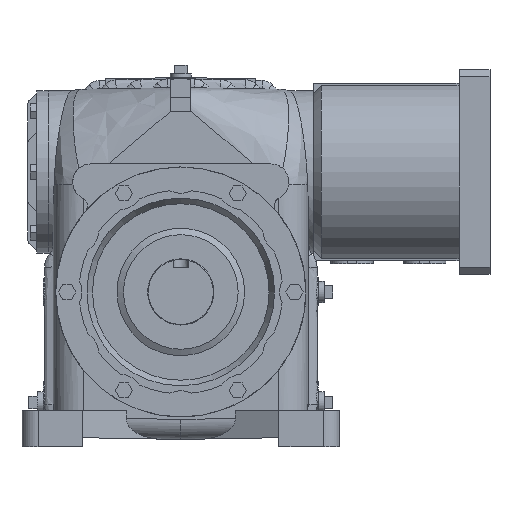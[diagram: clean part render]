
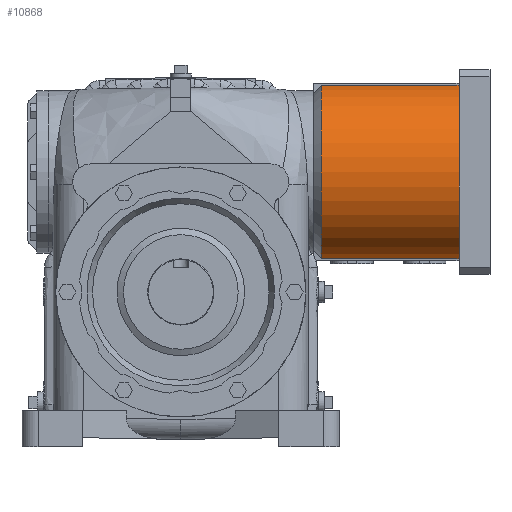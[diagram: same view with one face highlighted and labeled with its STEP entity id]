
A CAD part, front view. The second image highlights one B-rep face of the part: STEP entity #10868.
In plain terms, the highlighted cylindrical face has radius 112.713 mm (diameter 225.425 mm), a partial arc.
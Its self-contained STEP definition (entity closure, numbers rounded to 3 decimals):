
#204=CYLINDRICAL_SURFACE('',#13046,112.713);
#1579=LINE('',#33368,#2365);
#1583=LINE('',#33375,#2369);
#2365=VECTOR('',#15440,1000.);
#2369=VECTOR('',#15450,1000.);
#5345=ORIENTED_EDGE('',*,*,#6947,.F.);
#5346=ORIENTED_EDGE('',*,*,#6987,.F.);
#5347=ORIENTED_EDGE('',*,*,#6963,.T.);
#5348=ORIENTED_EDGE('',*,*,#6991,.T.);
#6947=EDGE_CURVE('',#8043,#8044,#8341,.T.);
#6963=EDGE_CURVE('',#8059,#8058,#8348,.T.);
#6987=EDGE_CURVE('',#8059,#8043,#1579,.T.);
#6991=EDGE_CURVE('',#8058,#8044,#1583,.T.);
#8043=VERTEX_POINT('',#33272);
#8044=VERTEX_POINT('',#33274);
#8058=VERTEX_POINT('',#33311);
#8059=VERTEX_POINT('',#33313);
#8341=CIRCLE('',#13012,112.713);
#8348=CIRCLE('',#13024,112.713);
#9083=EDGE_LOOP('',(#5345,#5346,#5347,#5348));
#9860=FACE_BOUND('',#9083,.T.);
#10868=ADVANCED_FACE('',(#9860),#204,.T.);
#13012=AXIS2_PLACEMENT_3D('',#33273,#15357,#15358);
#13024=AXIS2_PLACEMENT_3D('',#33312,#15389,#15390);
#13046=AXIS2_PLACEMENT_3D('',#33377,#15453,#15454);
#15357=DIRECTION('',(1.,0.,0.));
#15358=DIRECTION('',(0.,0.,-1.));
#15389=DIRECTION('',(1.,0.,0.));
#15390=DIRECTION('',(0.,0.,-1.));
#15440=DIRECTION('',(1.,0.,0.));
#15450=DIRECTION('',(1.,0.,0.));
#15453=DIRECTION('',(1.,0.,0.));
#15454=DIRECTION('',(0.,0.,-1.));
#33272=CARTESIAN_POINT('',(185.014,-24.719,109.968));
#33273=CARTESIAN_POINT('',(185.014,0.,0.));
#33274=CARTESIAN_POINT('',(185.014,-24.713,-109.97));
#33311=CARTESIAN_POINT('',(9.804,-24.713,-109.97));
#33312=CARTESIAN_POINT('',(9.804,0.,0.));
#33313=CARTESIAN_POINT('',(9.804,-24.719,109.968));
#33368=CARTESIAN_POINT('',(122.103,-24.719,109.968));
#33375=CARTESIAN_POINT('',(122.103,-24.713,-109.97));
#33377=CARTESIAN_POINT('',(122.103,0.,0.));
